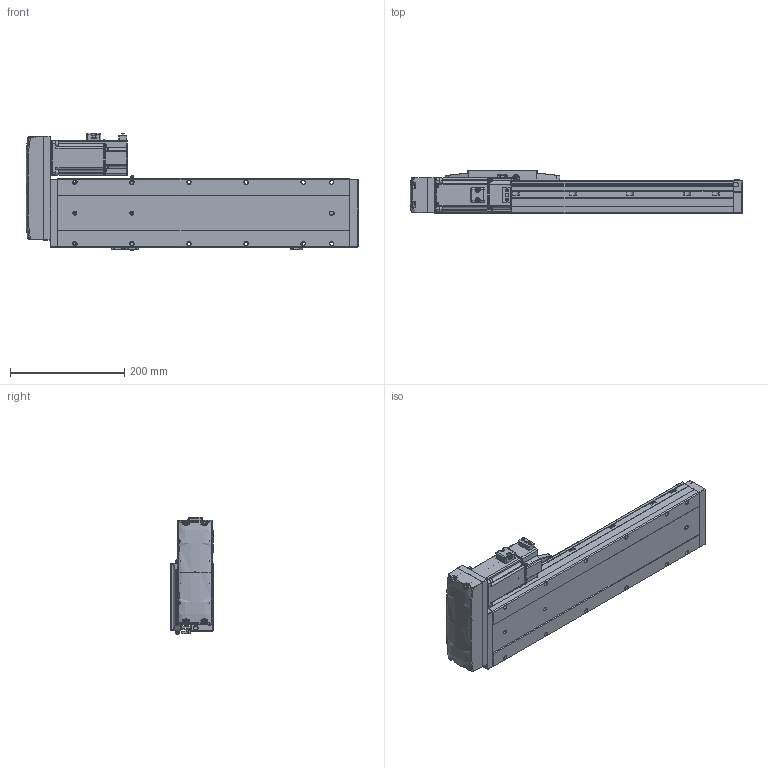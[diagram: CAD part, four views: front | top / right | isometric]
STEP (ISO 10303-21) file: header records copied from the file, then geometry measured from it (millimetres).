
FILE_DESCRIPTION (( 'STEP AP214' ), '1' );
FILE_NAME ('CTH12-L10-S300-BL-C40（简）.STEP', '2023-02-06T05:06:50', ( '' ), ( '' ), 'SwSTEP 2.0', 'SolidWorks 2018', '' );
FILE_SCHEMA (( 'AUTOMOTIVE_DESIGN' ));
Length unit declared in the file: millimetre
Products named in the file (24): CTH12侧装连接板（标准）简; 内六角圆柱头螺钉M3; CTH400W假蚾啣; 400W萇儂; CTH12_body_3; CTH12底座-L511简（300行程）; 蚐郲; 内六角圆柱头螺钉M3-1; 嫖萇羲壽郪磁2; CTH12覜茼え; 嫖萇羲壽郪磁1; CTH12耜蚾裔; CTH12; CTH12-BL_body_4; PM-Y45; hex nuts, style 1-grades ab gb_GB_FASTENER_NUT_SNAB1 M3-N; CTH12-L10-S300-BL-C40（简）; CTH12賑怢ㄗ潠ㄘ; 内六角圆柱头螺钉M3-2; M5蹟隊; 湮賑怢  裔赽-1(CTH12)賑怢; CTH嫖萇羲壽假蚾啣; CTH400W垫板（3个厚）; CTH12賑怢郪磁
Assembly tree (44 placements, depth 4):
  CTH12-L10-S300-BL-C40（简）
    CTH12底座-L511简（300行程）
    蚐郲  x2
    CTH12_body_3
    CTH12-BL_body_4
    CTH12侧装连接板（标准）简
    CTH12耜蚾裔
    CTH12賑怢郪磁
      CTH12
        湮賑怢  裔赽-1(CTH12)賑怢
        CTH12賑怢ㄗ潠ㄘ
    CTH12覜茼え
    CTH400W垫板（3个厚）
    400W萇儂
    内六角圆柱头螺钉M3  x6
    M5蹟隊  x4
    嫖萇羲壽郪磁1
      CTH嫖萇羲壽假蚾啣
      PM-Y45
      内六角圆柱头螺钉M3-2  x2
      内六角圆柱头螺钉M3-1  x2
      hex nuts, style 1-grades ab gb_GB_FASTENER_NUT_SNAB1 M3-N  x2
    嫖萇羲壽郪磁2  x2
      CTH嫖萇羲壽假蚾啣
      PM-Y45
      内六角圆柱头螺钉M3-1
      内六角圆柱头螺钉M3-2
      hex nuts, style 1-grades ab gb_GB_FASTENER_NUT_SNAB1 M3-N
    CTH400W假蚾啣
Bounding box: 581.5 x 76 x 205.26 mm (x, y, z)
Volume: 4124247.5 mm3; surface area: 538415.6 mm2
Topology: 47 solids, 48 shells, 3110 faces, 7749 edges, 4861 vertices
Faces by surface type: plane 1514, cylinder 899, cone 391, bspline 178, torus 124, sphere 4
Entity records: 101978 total; most frequent: CARTESIAN_POINT 38170, ORIENTED_EDGE 12600, DIRECTION 11882, EDGE_CURVE 6300, AXIS2_PLACEMENT_3D 4160, VERTEX_POINT 3965, LINE 3562, VECTOR 3562
